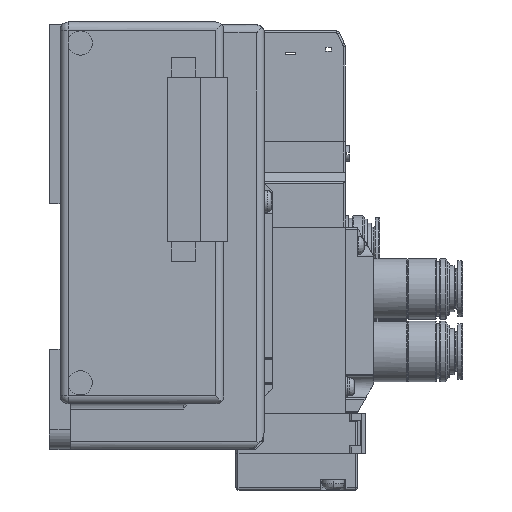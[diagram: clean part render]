
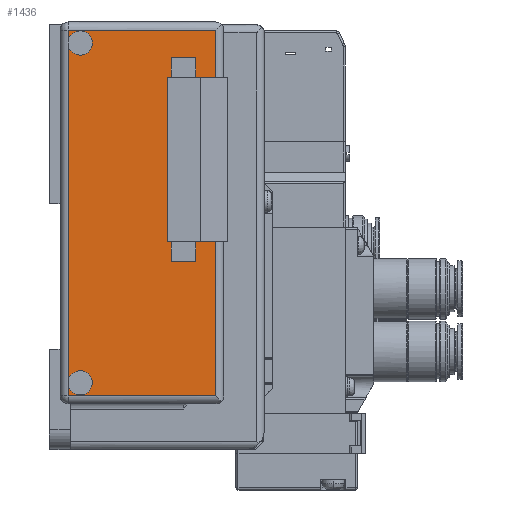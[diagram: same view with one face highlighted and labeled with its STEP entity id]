
A CAD part, left-side view. The second image highlights one B-rep face of the part: STEP entity #1436.
In plain terms, the highlighted planar face has unit normal (-1, 0, 0).
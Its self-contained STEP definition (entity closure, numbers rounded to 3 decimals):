
#1436=ADVANCED_FACE('',(#7678,#7679),#7677,.F.);
#7677=PLANE('',#20424);
#7678=FACE_OUTER_BOUND('',#20425,.T.);
#7679=FACE_BOUND('',#20426,.T.);
#20421=CARTESIAN_POINT('',(-50.,-49.65,72.335));
#20422=DIRECTION('',(1.,0.,0.));
#20423=DIRECTION('',(0.,0.,-1.));
#20424=AXIS2_PLACEMENT_3D('',#20421,#20422,#20423);
#20425=EDGE_LOOP('',(#28578,#28579,#28580,#28581,#28582,#28583,#28584,#28585,#28586,#28587,#28588,#28589));
#20426=EDGE_LOOP('',(#28590,#28591,#28592,#28593,#28594,#28595,#28596,#28597));
#28578=ORIENTED_EDGE('',*,*,#34474,.T.);
#28579=ORIENTED_EDGE('',*,*,#34475,.T.);
#28580=ORIENTED_EDGE('',*,*,#34476,.T.);
#28581=ORIENTED_EDGE('',*,*,#34477,.T.);
#28582=ORIENTED_EDGE('',*,*,#34478,.F.);
#28583=ORIENTED_EDGE('',*,*,#34479,.F.);
#28584=ORIENTED_EDGE('',*,*,#34480,.F.);
#28585=ORIENTED_EDGE('',*,*,#34481,.T.);
#28586=ORIENTED_EDGE('',*,*,#34482,.F.);
#28587=ORIENTED_EDGE('',*,*,#34483,.F.);
#28588=ORIENTED_EDGE('',*,*,#34484,.F.);
#28589=ORIENTED_EDGE('',*,*,#34485,.T.);
#28590=ORIENTED_EDGE('',*,*,#34486,.F.);
#28591=ORIENTED_EDGE('',*,*,#34487,.T.);
#28592=ORIENTED_EDGE('',*,*,#34488,.T.);
#28593=ORIENTED_EDGE('',*,*,#34489,.T.);
#28594=ORIENTED_EDGE('',*,*,#34490,.F.);
#28595=ORIENTED_EDGE('',*,*,#34491,.T.);
#28596=ORIENTED_EDGE('',*,*,#34492,.T.);
#28597=ORIENTED_EDGE('',*,*,#34493,.F.);
#34474=EDGE_CURVE('',#45737,#45738,#45739,.T.);
#34475=EDGE_CURVE('',#45738,#45745,#45746,.T.);
#34476=EDGE_CURVE('',#45745,#45752,#45753,.T.);
#34477=EDGE_CURVE('',#45752,#45759,#45760,.T.);
#34478=EDGE_CURVE('',#45766,#45759,#45767,.T.);
#34479=EDGE_CURVE('',#45773,#45766,#45774,.T.);
#34480=EDGE_CURVE('',#45759,#45773,#45780,.T.);
#34481=EDGE_CURVE('',#45759,#45786,#45787,.T.);
#34482=EDGE_CURVE('',#45793,#45786,#45794,.T.);
#34483=EDGE_CURVE('',#45800,#45793,#45801,.T.);
#34484=EDGE_CURVE('',#45786,#45800,#45807,.T.);
#34485=EDGE_CURVE('',#45786,#45737,#45813,.T.);
#34486=EDGE_CURVE('',#45819,#45820,#45821,.T.);
#34487=EDGE_CURVE('',#45819,#45827,#45828,.T.);
#34488=EDGE_CURVE('',#45827,#45834,#45835,.T.);
#34489=EDGE_CURVE('',#45834,#45841,#45842,.T.);
#34490=EDGE_CURVE('',#45848,#45841,#45849,.T.);
#34491=EDGE_CURVE('',#45848,#45855,#45856,.T.);
#34492=EDGE_CURVE('',#45855,#45862,#45863,.T.);
#34493=EDGE_CURVE('',#45820,#45862,#45869,.T.);
#45737=VERTEX_POINT('',#66014);
#45738=VERTEX_POINT('',#66015);
#45739=LINE('',#66016,#66017);
#45745=VERTEX_POINT('',#66019);
#45746=LINE('',#66020,#66021);
#45752=VERTEX_POINT('',#66023);
#45753=LINE('',#66024,#66025);
#45759=VERTEX_POINT('',#66027);
#45760=LINE('',#66028,#66029);
#45766=VERTEX_POINT('',#66031);
#45767=CIRCLE('',#66035,3.);
#45773=VERTEX_POINT('',#66036);
#45774=CIRCLE('',#66040,3.);
#45780=CIRCLE('',#66044,3.);
#45786=VERTEX_POINT('',#66045);
#45787=LINE('',#66046,#66047);
#45793=VERTEX_POINT('',#66049);
#45794=CIRCLE('',#66053,3.);
#45800=VERTEX_POINT('',#66054);
#45801=CIRCLE('',#66058,3.);
#45807=CIRCLE('',#66062,3.);
#45813=LINE('',#66063,#66064);
#45819=VERTEX_POINT('',#66066);
#45820=VERTEX_POINT('',#66067);
#45821=LINE('',#66068,#66069);
#45827=VERTEX_POINT('',#66071);
#45828=LINE('',#66072,#66073);
#45834=VERTEX_POINT('',#66075);
#45835=LINE('',#66076,#66077);
#45841=VERTEX_POINT('',#66079);
#45842=LINE('',#66080,#66081);
#45848=VERTEX_POINT('',#66083);
#45849=LINE('',#66084,#66085);
#45855=VERTEX_POINT('',#66087);
#45856=LINE('',#66088,#66089);
#45862=VERTEX_POINT('',#66091);
#45863=LINE('',#66092,#66093);
#45869=LINE('',#66095,#66096);
#66014=CARTESIAN_POINT('',(-50.,-9.5,-29.5));
#66015=CARTESIAN_POINT('',(-50.,-46.,-29.5));
#66016=CARTESIAN_POINT('',(-50.,-9.5,-29.5));
#66017=VECTOR('',#66018,36.5);
#66018=DIRECTION('',(0.,-1.,0.));
#66019=CARTESIAN_POINT('',(-50.,-46.,60.9));
#66020=CARTESIAN_POINT('',(-50.,-46.,-29.5));
#66021=VECTOR('',#66022,90.4);
#66022=DIRECTION('',(0.,0.,1.));
#66023=CARTESIAN_POINT('',(-50.,-9.5,60.9));
#66024=CARTESIAN_POINT('',(-50.,-46.,60.9));
#66025=VECTOR('',#66026,36.5);
#66026=DIRECTION('',(0.,1.,0.));
#66027=CARTESIAN_POINT('',(-50.,-9.5,57.7));
#66028=CARTESIAN_POINT('',(-50.,-9.5,60.9));
#66029=VECTOR('',#66030,3.2);
#66030=DIRECTION('',(0.,0.,-1.));
#66031=CARTESIAN_POINT('',(-50.,-12.5,60.7));
#66032=CARTESIAN_POINT('',(-50.,-12.5,57.7));
#66033=DIRECTION('',(-1.,0.,0.));
#66034=DIRECTION('',(0.,1.,0.));
#66035=AXIS2_PLACEMENT_3D('',#66032,#66033,#66034);
#66036=CARTESIAN_POINT('',(-50.,-12.5,54.7));
#66037=CARTESIAN_POINT('',(-50.,-12.5,57.7));
#66038=DIRECTION('',(-1.,0.,0.));
#66039=DIRECTION('',(0.,1.,0.));
#66040=AXIS2_PLACEMENT_3D('',#66037,#66038,#66039);
#66041=CARTESIAN_POINT('',(-50.,-12.5,57.7));
#66042=DIRECTION('',(-1.,0.,0.));
#66043=DIRECTION('',(0.,1.,0.));
#66044=AXIS2_PLACEMENT_3D('',#66041,#66042,#66043);
#66045=CARTESIAN_POINT('',(-50.,-9.5,-26.3));
#66046=CARTESIAN_POINT('',(-50.,-9.5,57.7));
#66047=VECTOR('',#66048,84.);
#66048=DIRECTION('',(0.,0.,-1.));
#66049=CARTESIAN_POINT('',(-50.,-12.5,-23.3));
#66050=CARTESIAN_POINT('',(-50.,-12.5,-26.3));
#66051=DIRECTION('',(-1.,0.,0.));
#66052=DIRECTION('',(0.,1.,0.));
#66053=AXIS2_PLACEMENT_3D('',#66050,#66051,#66052);
#66054=CARTESIAN_POINT('',(-50.,-12.5,-29.3));
#66055=CARTESIAN_POINT('',(-50.,-12.5,-26.3));
#66056=DIRECTION('',(-1.,0.,0.));
#66057=DIRECTION('',(0.,1.,0.));
#66058=AXIS2_PLACEMENT_3D('',#66055,#66056,#66057);
#66059=CARTESIAN_POINT('',(-50.,-12.5,-26.3));
#66060=DIRECTION('',(-1.,0.,0.));
#66061=DIRECTION('',(0.,1.,0.));
#66062=AXIS2_PLACEMENT_3D('',#66059,#66060,#66061);
#66063=CARTESIAN_POINT('',(-50.,-9.5,-26.3));
#66064=VECTOR('',#66065,3.2);
#66065=DIRECTION('',(0.,0.,-1.));
#66066=CARTESIAN_POINT('',(-50.,-41.,54.12));
#66067=CARTESIAN_POINT('',(-50.,-35.,54.12));
#66068=CARTESIAN_POINT('',(-50.,-41.,54.12));
#66069=VECTOR('',#66070,6.);
#66070=DIRECTION('',(0.,1.,0.));
#66071=CARTESIAN_POINT('',(-50.,-41.,49.22));
#66072=CARTESIAN_POINT('',(-50.,-41.,54.12));
#66073=VECTOR('',#66074,4.9);
#66074=DIRECTION('',(0.,0.,-1.));
#66075=CARTESIAN_POINT('',(-50.,-44.5,49.22));
#66076=CARTESIAN_POINT('',(-50.,-41.,49.22));
#66077=VECTOR('',#66078,3.5);
#66078=DIRECTION('',(0.,-1.,0.));
#66079=CARTESIAN_POINT('',(-50.,-44.5,8.58));
#66080=CARTESIAN_POINT('',(-50.,-44.5,49.22));
#66081=VECTOR('',#66082,40.64);
#66082=DIRECTION('',(0.,0.,-1.));
#66083=CARTESIAN_POINT('',(-50.,-41.,8.58));
#66084=CARTESIAN_POINT('',(-50.,-41.,8.58));
#66085=VECTOR('',#66086,3.5);
#66086=DIRECTION('',(0.,-1.,0.));
#66087=CARTESIAN_POINT('',(-50.,-41.,3.68));
#66088=CARTESIAN_POINT('',(-50.,-41.,8.58));
#66089=VECTOR('',#66090,4.9);
#66090=DIRECTION('',(0.,0.,-1.));
#66091=CARTESIAN_POINT('',(-50.,-35.,3.68));
#66092=CARTESIAN_POINT('',(-50.,-41.,3.68));
#66093=VECTOR('',#66094,6.);
#66094=DIRECTION('',(0.,1.,0.));
#66095=CARTESIAN_POINT('',(-50.,-35.,54.12));
#66096=VECTOR('',#66097,50.44);
#66097=DIRECTION('',(0.,0.,-1.));
